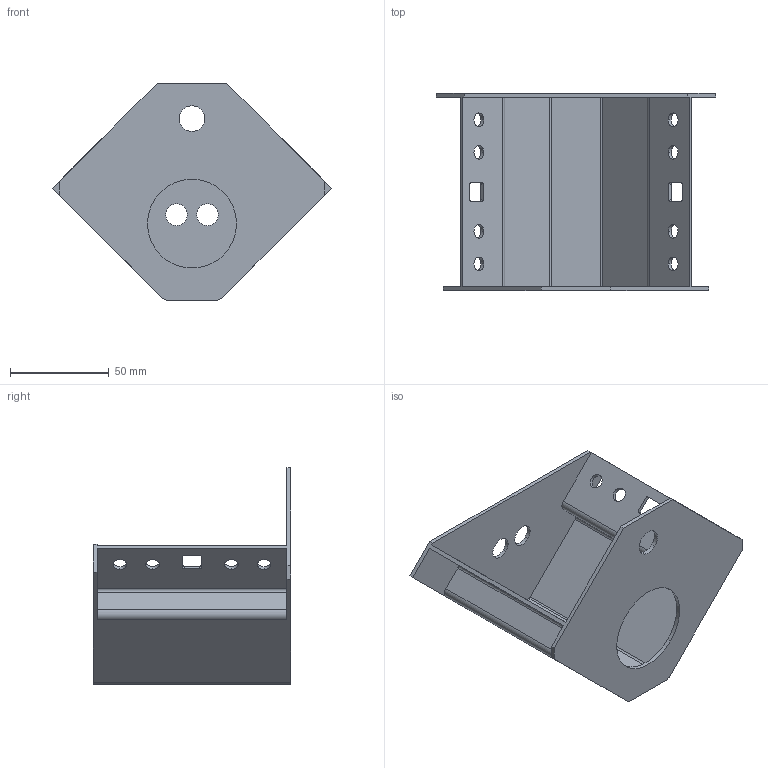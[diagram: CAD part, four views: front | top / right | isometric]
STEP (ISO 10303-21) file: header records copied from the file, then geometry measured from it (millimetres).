
FILE_DESCRIPTION (( 'STEP AP203' ), '1' );
FILE_NAME ('Z 100 I Óãëîâîé ýëåìåíò öîêîëÿ òåëåêîììóíèêàöèîííîãî.STEP', '2013-01-12T10:14:14', ( 'System' ), ( '' ), 'SwSTEP 2.0', 'SolidWorks 2012', '' );
FILE_SCHEMA (( 'CONFIG_CONTROL_DESIGN' ));
Length unit declared in the file: millimetre
Products named in the file (1): Z 100 I Óãëîâîé ýëåìåíò öîêîëÿ òåëåêîììóíèêàöèîííîãî
Bounding box: 141.42 x 100 x 109.74 mm (x, y, z)
Volume: 68855.6 mm3; surface area: 70793.3 mm2
Topology: 1 solids, 1 shells, 80 faces, 234 edges, 156 vertices
Faces by surface type: cylinder 44, plane 36
Entity records: 2819 total; most frequent: DIRECTION 484, CARTESIAN_POINT 471, ORIENTED_EDGE 468, EDGE_CURVE 234, AXIS2_PLACEMENT_3D 169, VERTEX_POINT 156, VECTOR 146, LINE 146
